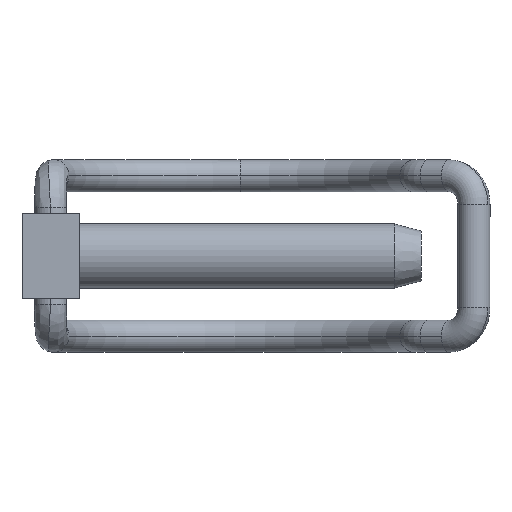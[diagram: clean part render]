
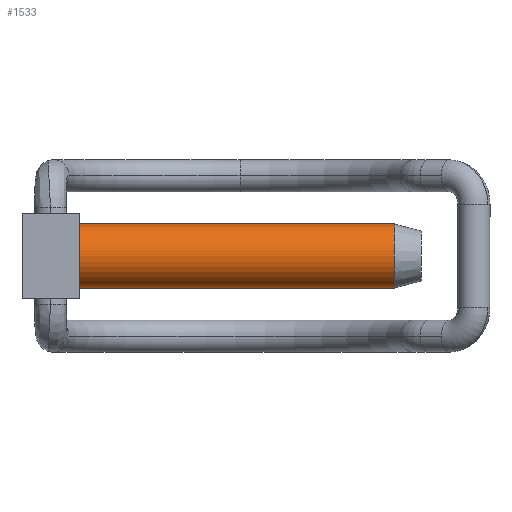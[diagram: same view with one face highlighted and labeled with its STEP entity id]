
A CAD part, left-side view. The second image highlights one B-rep face of the part: STEP entity #1533.
In plain terms, the highlighted cylindrical face has radius 3 mm (diameter 6 mm), a partial arc.
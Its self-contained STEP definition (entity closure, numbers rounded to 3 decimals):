
#47 = DIRECTION ( 'NONE',  ( 0., 1., 0. ) ) ;
#137 = CARTESIAN_POINT ( 'NONE',  ( 0., -32., 0. ) ) ;
#151 = VERTEX_POINT ( 'NONE', #1579 ) ;
#214 = CARTESIAN_POINT ( 'NONE',  ( 0., 0., -3. ) ) ;
#253 = AXIS2_PLACEMENT_3D ( 'NONE', #900, #1023, #1308 ) ;
#298 = AXIS2_PLACEMENT_3D ( 'NONE', #137, #1109, #1569 ) ;
#331 = ORIENTED_EDGE ( 'NONE', *, *, #390, .F. ) ;
#390 = EDGE_CURVE ( 'NONE', #1018, #151, #1763, .T. ) ;
#430 = DIRECTION ( 'NONE',  ( 0., 1., 0. ) ) ;
#443 = EDGE_CURVE ( 'NONE', #1656, #1018, #892, .T. ) ;
#621 = AXIS2_PLACEMENT_3D ( 'NONE', #1541, #706, #679 ) ;
#679 = DIRECTION ( 'NONE',  ( 0., 0., 1. ) ) ;
#687 = FACE_OUTER_BOUND ( 'NONE', #1076, .T. ) ;
#698 = CARTESIAN_POINT ( 'NONE',  ( 0., -29.512, -3. ) ) ;
#706 = DIRECTION ( 'NONE',  ( 0., 1., 0. ) ) ;
#711 = VERTEX_POINT ( 'NONE', #1435 ) ;
#730 = VECTOR ( 'NONE', #430, 1000. ) ;
#841 = CYLINDRICAL_SURFACE ( 'NONE', #298, 3. ) ;
#871 = EDGE_CURVE ( 'NONE', #1656, #711, #1329, .T. ) ;
#892 = LINE ( 'NONE', #1477, #1157 ) ;
#900 = CARTESIAN_POINT ( 'NONE',  ( 0., 0., 0. ) ) ;
#994 = ORIENTED_EDGE ( 'NONE', *, *, #443, .F. ) ;
#1018 = VERTEX_POINT ( 'NONE', #214 ) ;
#1023 = DIRECTION ( 'NONE',  ( 0., 1., 0. ) ) ;
#1060 = ORIENTED_EDGE ( 'NONE', *, *, #1655, .T. ) ;
#1076 = EDGE_LOOP ( 'NONE', ( #994, #1266, #1060, #331 ) ) ;
#1109 = DIRECTION ( 'NONE',  ( 0., 1., 0. ) ) ;
#1157 = VECTOR ( 'NONE', #47, 1000. ) ;
#1266 = ORIENTED_EDGE ( 'NONE', *, *, #871, .T. ) ;
#1308 = DIRECTION ( 'NONE',  ( 0., 0., 1. ) ) ;
#1329 = CIRCLE ( 'NONE', #621, 3. ) ;
#1435 = CARTESIAN_POINT ( 'NONE',  ( 0., -29.512, 3. ) ) ;
#1440 = LINE ( 'NONE', #1473, #730 ) ;
#1473 = CARTESIAN_POINT ( 'NONE',  ( 0., -32., 3. ) ) ;
#1477 = CARTESIAN_POINT ( 'NONE',  ( 0., -32., -3. ) ) ;
#1533 = ADVANCED_FACE ( 'NONE', ( #687 ), #841, .T. ) ;
#1541 = CARTESIAN_POINT ( 'NONE',  ( 0., -29.512, 0. ) ) ;
#1569 = DIRECTION ( 'NONE',  ( 0., 0., 1. ) ) ;
#1579 = CARTESIAN_POINT ( 'NONE',  ( 0., 0., 3. ) ) ;
#1655 = EDGE_CURVE ( 'NONE', #711, #151, #1440, .T. ) ;
#1656 = VERTEX_POINT ( 'NONE', #698 ) ;
#1763 = CIRCLE ( 'NONE', #253, 3. ) ;
